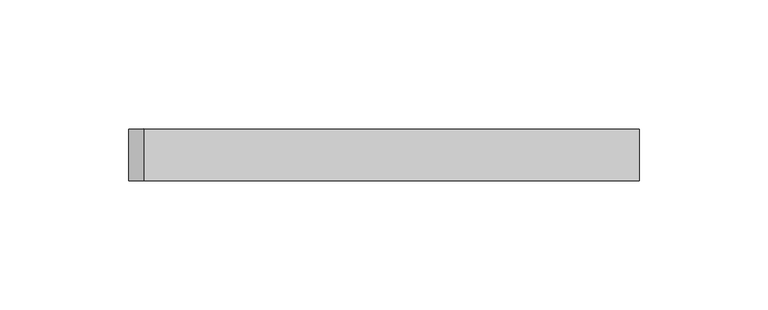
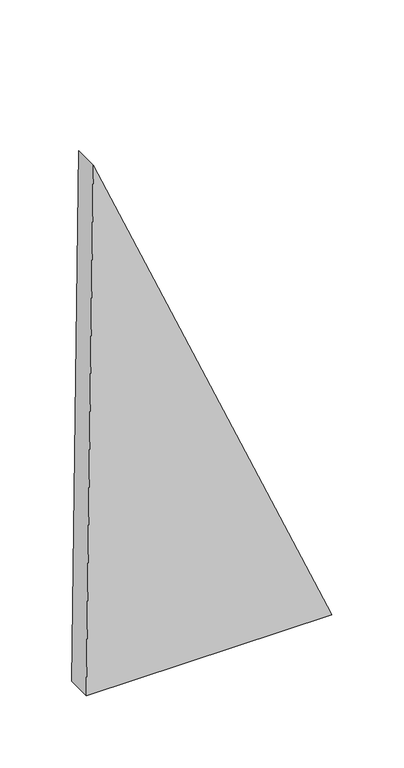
"""IFC4 building model written with IfcOpenShell, lengths in millimetres: plate geometry, 空系统嵌板 : 空."""

import ifcopenshell
import ifcopenshell.guid

model = None  # the IFC model being written
_history = None  # IfcOwnerHistory: only IFC2X3 demands one
_inside = {}  # id of a spatial element -> (the spatial element, [elements in it])
_under = {}  # id of a project, library or spatial element -> (it, [spatial elements below it])
_declared = {}  # id of a project -> (the project, [libraries it declares])
_typed = {}  # id of a type object -> (the type object, [elements of that type])
_made_of = {}  # id of a material, layer set ... -> (it, [elements and type objects made of it])


def new_model(schema):
    """Start an empty IFC model of exactly this schema.

    Asked for "IFC4X3", IfcOpenShell would pick the latest addendum, in which some entities
    have other attributes; the version numbers below select the first issue.
    IFC2X3 requires an IfcOwnerHistory on every rooted entity: one is made here for all.
    """
    global model, _history
    if schema == "IFC4X3":
        model = ifcopenshell.file(schema_version=(4, 3, 0, 0))
    else:
        model = ifcopenshell.file(schema=schema)
    _inside.clear()
    _under.clear()
    _declared.clear()
    _typed.clear()
    _made_of.clear()
    _history = None
    if model.schema == "IFC2X3":
        org = make("IfcOrganization", Name="unknown")
        user = make(
            "IfcPersonAndOrganization",
            ThePerson=make("IfcPerson", FamilyName="unknown"),
            TheOrganization=org,
        )
        app = make(
            "IfcApplication",
            ApplicationDeveloper=org,
            Version="unknown",
            ApplicationFullName="unknown",
            ApplicationIdentifier="unknown",
        )
        _history = make(
            "IfcOwnerHistory",
            OwningUser=user,
            OwningApplication=app,
            ChangeAction="ADDED",
            CreationDate=0,
        )
    return model


def make(cls, **values):
    """One entity of the class cls with the attributes given. An attribute that is None is left unset."""
    return model.create_entity(
        cls, **{name: value for name, value in values.items() if value is not None}
    )


def rooted(cls, **values):
    """An entity with a GlobalId (a new one), such as an element, a storey or a relation."""
    return make(cls, GlobalId=ifcopenshell.guid.new(), OwnerHistory=_history, **values)


def si_unit(unit_type, name, prefix=None):
    """IfcSIUnit, for example si_unit("LENGTHUNIT", "METRE", prefix="MILLI")."""
    return make("IfcSIUnit", UnitType=unit_type, Prefix=prefix, Name=name)


def assignment(units):
    """IfcUnitAssignment: the units of a project."""
    return None if units is None else make("IfcUnitAssignment", Units=units)


def point(xyz):
    """IfcCartesianPoint."""
    return None if xyz is None else make("IfcCartesianPoint", Coordinates=xyz)


def direction(xyz):
    """IfcDirection."""
    return None if xyz is None else make("IfcDirection", DirectionRatios=xyz)


def frame(location, z_axis=None, x_axis=None):
    """IfcAxis2Placement3D, a coordinate frame: its origin and axes. An axis left out is left unset."""
    return make(
        "IfcAxis2Placement3D",
        Location=point(location),
        Axis=direction(z_axis),
        RefDirection=direction(x_axis),
    )


def origin():
    """The frame at (0, 0, 0) with its axes left unset."""
    return frame((0.0, 0.0, 0.0))


def place(relative_to, where):
    """IfcLocalPlacement: puts the frame where relative to a parent placement (None: the world)."""
    return make(
        "IfcLocalPlacement", PlacementRelTo=relative_to, RelativePlacement=where
    )


def context(
    kind, dimensions, precision=None, world=None, true_north=None, identifier=None
):
    """IfcGeometricRepresentationContext, for example the 3D "Model" context."""
    return make(
        "IfcGeometricRepresentationContext",
        ContextIdentifier=identifier,
        ContextType=kind,
        CoordinateSpaceDimension=dimensions,
        Precision=precision,
        WorldCoordinateSystem=world,
        TrueNorth=true_north,
    )


def project(units=None, contexts=None):
    """IfcProject with its units and contexts."""
    return rooted(
        "IfcProject",
        Name="project",
        RepresentationContexts=contexts,
        UnitsInContext=assignment(units),
    )


def spatial(cls, under=None, at=None, **own):
    """A site, building, storey or space (cls), placed at a placement, below another one or the project."""
    s = rooted(cls, ObjectPlacement=at, **own)
    if under is not None:
        _under.setdefault(under.id(), (under, []))[1].append(s)
    return s


def polyline(points):
    """IfcPolyline through the points."""
    return make("IfcPolyline", Points=[point(p) for p in points])


def outline(outer, holes=None, kind="AREA"):
    """IfcArbitraryClosedProfileDef: a profile drawn as a closed curve; with holes, ...WithVoids."""
    if holes is None:
        return make("IfcArbitraryClosedProfileDef", ProfileType=kind, OuterCurve=outer)
    return make(
        "IfcArbitraryProfileDefWithVoids",
        ProfileType=kind,
        OuterCurve=outer,
        InnerCurves=holes,
    )


def extrude(swept, where, along, depth):
    """IfcExtrudedAreaSolid: the profile swept, set in the frame where, extruded along a direction by depth."""
    return make(
        "IfcExtrudedAreaSolid",
        SweptArea=swept,
        Position=where,
        ExtrudedDirection=direction(along),
        Depth=depth,
    )


def shape(context_of_items, identifier, shape_type, items):
    """IfcShapeRepresentation: the items that make up one representation, for example the "Body"."""
    return make(
        "IfcShapeRepresentation",
        ContextOfItems=context_of_items,
        RepresentationIdentifier=identifier,
        RepresentationType=shape_type,
        Items=items,
    )


def source(mapping_origin, context_of_items, identifier, shape_type, items):
    """IfcRepresentationMap: a shape defined once, which mapped items show again and again."""
    return make(
        "IfcRepresentationMap",
        MappingOrigin=mapping_origin,
        MappedRepresentation=shape(context_of_items, identifier, shape_type, items),
    )


def transform(
    local_origin,
    x_axis=None,
    y_axis=None,
    z_axis=None,
    scale=None,
    scale2=None,
    scale3=None,
    uniform=True,
):
    """IfcCartesianTransformationOperator3D, or its non-uniform kind. x_axis, y_axis, z_axis: its Axis1, 2, 3."""
    if uniform:
        return make(
            "IfcCartesianTransformationOperator3D",
            Axis1=direction(x_axis),
            Axis2=direction(y_axis),
            LocalOrigin=point(local_origin),
            Scale=scale,
            Axis3=direction(z_axis),
        )
    return make(
        "IfcCartesianTransformationOperator3DnonUniform",
        Axis1=direction(x_axis),
        Axis2=direction(y_axis),
        LocalOrigin=point(local_origin),
        Scale=scale,
        Axis3=direction(z_axis),
        Scale2=scale2,
        Scale3=scale3,
    )


def mapped(mapping_source, mapping_target):
    """IfcMappedItem: shows the shape of a source again, moved by a transform."""
    return make(
        "IfcMappedItem", MappingSource=mapping_source, MappingTarget=mapping_target
    )


def made_of(thing, what):
    """Note that an element or type object is made of a material, layer set ...; save() writes the relation."""
    if what is not None:
        _made_of.setdefault(what.id(), (what, []))[1].append(thing)
    return thing


def element(
    cls,
    number,
    at=None,
    inside=None,
    cuts=None,
    type_object=None,
    material=None,
    context=None,
    identifier="Body",
    shape_type=None,
    held_by="IfcProductDefinitionShape",
    body=None,
    shapes=None,
    **own,
):
    """One element of the class cls, such as IfcWall. Its Tag is "e" and its number.

    at: its placement. inside: the storey or other place that contains it. cuts: it is an
    opening in that element (IfcRelVoidsElement). A single representation is given by context,
    identifier, shape_type and body (its items); several are given by shapes. held_by: the class
    of the entity that holds the representations. save() writes the other relations.
    """
    e = rooted(cls, Tag="e%d" % number, ObjectPlacement=at, **own)
    if body is not None:
        shapes = [shape(context, identifier, shape_type, body)]
    if shapes is not None:
        e.Representation = make(held_by, Representations=shapes)
    if inside is not None:
        _inside.setdefault(inside.id(), (inside, []))[1].append(e)
    if cuts is not None:
        rooted(
            "IfcRelVoidsElement", RelatingBuildingElement=cuts, RelatedOpeningElement=e
        )
    if type_object is not None:
        _typed.setdefault(type_object.id(), (type_object, []))[1].append(e)
    return made_of(e, material)


def aggregate(whole, parts):
    """IfcRelAggregates: a whole, such as a stair, and the parts it consists of."""
    return rooted("IfcRelAggregates", RelatingObject=whole, RelatedObjects=parts)


def save(model, path):
    """Write the relations noted so far, then the file.

    IfcRelAggregates (storeys below a building ...), IfcRelContainedInSpatialStructure (elements
    in a storey), IfcRelDefinesByType, IfcRelAssociatesMaterial and IfcRelDeclares: one each for
    every whole, place, type object, material and project.
    """
    for whole, parts in _under.values():
        aggregate(whole, parts)
    for where, things in _inside.values():
        rooted(
            "IfcRelContainedInSpatialStructure",
            RelatedElements=things,
            RelatingStructure=where,
        )
    for kind, things in _typed.values():
        rooted("IfcRelDefinesByType", RelatedObjects=things, RelatingType=kind)
    for what, things in _made_of.values():
        rooted("IfcRelAssociatesMaterial", RelatedObjects=things, RelatingMaterial=what)
    for by, libraries in _declared.values():
        rooted("IfcRelDeclares", RelatingContext=by, RelatedDefinitions=libraries)
    model.write(path)


def plate_a3322e93(model_context):
    return source(origin(), model_context, "Body", "SweptSolid", [
        extrude(outline(polyline([(0.4417031, -98.8780934), (0.0, 98.8780934), (449.8225229, -93.1918525), (0.4417031, -98.8780934)])), frame((0.0, -10.0, 0.0), z_axis=(0.0, 1.0, 0.0), x_axis=(0.0, 0.0, 1.0)), (0.0, 0.0, 1.0), 20.0),
    ])


if __name__ == "__main__":
    model = new_model("IFC4")
    model_context = context("Model", 3, world=origin())
    ifc_project = project(units=[si_unit("LENGTHUNIT", "METRE", prefix="MILLI")], contexts=[model_context])
    site = spatial("IfcSite", under=ifc_project)
    building = spatial("IfcBuilding", under=site)
    placement = place(None, origin())
    plate_shape = plate_a3322e93(model_context)
    element("IfcPlate", 1, ObjectType="空系统嵌板 : 空", at=placement, inside=building, context=model_context, shape_type="MappedRepresentation", body=[
        mapped(plate_shape, transform((0.0, 0.0, 0.0), x_axis=(1.0, 0.0, 0.0), y_axis=(0.0, 1.0, 0.0), z_axis=(0.0, 0.0, 1.0))),
    ])
    save(model, "model.ifc")
